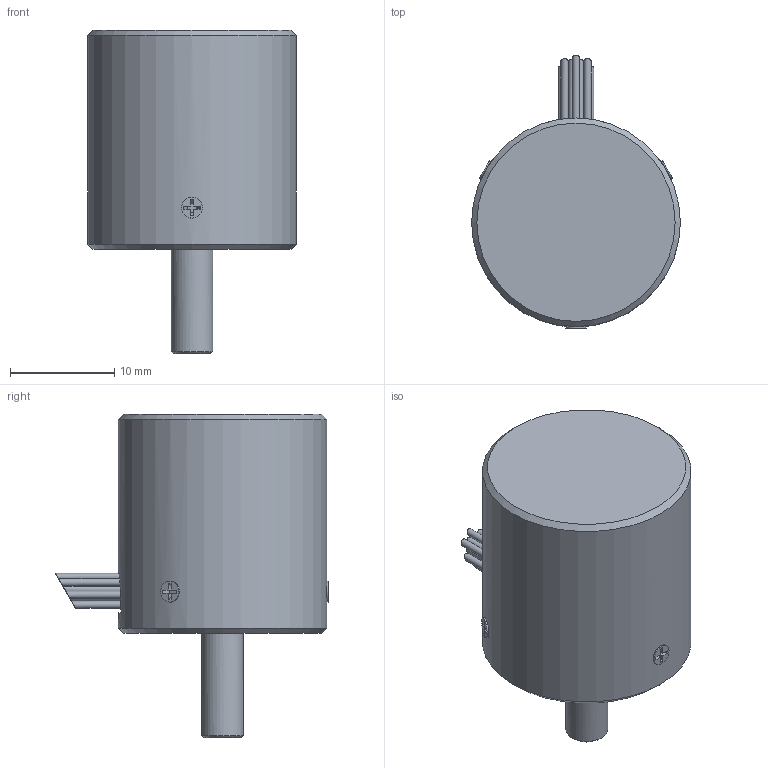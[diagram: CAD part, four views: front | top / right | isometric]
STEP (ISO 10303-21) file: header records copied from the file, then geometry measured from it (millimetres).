
FILE_DESCRIPTION(('STEP AP242'),'1');
FILE_NAME(').stp','2022-10-26T05:12:44',(' '),(' '),'Spatial InterOp 3D',' ',' ');
FILE_SCHEMA(('AP242_MANAGED_MODEL_BASED_3D_ENGINEERING_MIM_LF {1 0 10303 442 1 1 4}'));
Length unit declared in the file: millimetre
Products named in the file (3): L3F01A MAS-17-＊＊＊□1(512以上); 018211 サラ0番1種 M1.4x2.5 鉄 三価黒
Assembly tree (4 placements, depth 2):
  L3F01A MAS-17-＊＊＊□1(512以上)
    L3F01A MAS-17-＊＊＊□1(512以上)
    018211 サラ0番1種 M1.4x2.5 鉄 三価黒  x3
Bounding box: 20 x 26.16 x 31 mm (x, y, z)
Volume: 6523.9 mm3; surface area: 2570.1 mm2
Topology: 18 solids, 18 shells, 148 faces, 308 edges, 204 vertices
Faces by surface type: plane 86, cylinder 45, cone 14, bspline 3
Full cylindrical faces by diameter (mm): 0.7 x14, 1.1 x6, 1.4 x6, 1.6 x7, 2 x3, 4 x1, 20 x1
Entity records: 3955 total; most frequent: CARTESIAN_POINT 841, DIRECTION 414, ORIENTED_EDGE 282, AXIS2_PLACEMENT_3D 177, EDGE_LOOP 163, FACE_OUTER_BOUND 145, EDGE_CURVE 141, STYLED_ITEM 126
